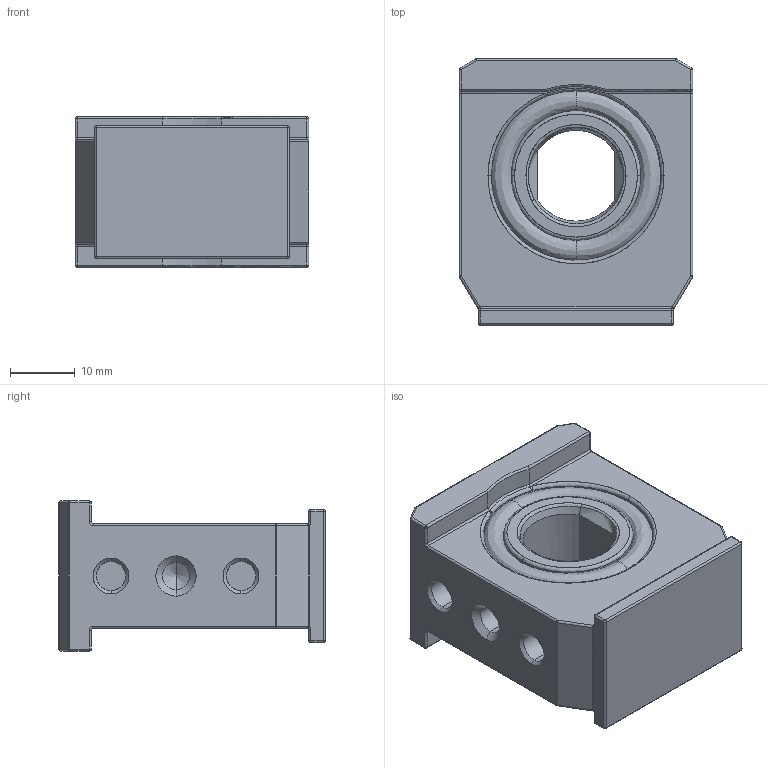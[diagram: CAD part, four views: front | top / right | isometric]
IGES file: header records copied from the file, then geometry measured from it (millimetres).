
Start section: SolidWorks IGES file using analytic representation for surfaces
Global section: file name: C:\Documents and Settings\Administrator\桌面\ZGNUFR03SB-1.IGS,1; native system: 5HSolidWorks 2012; preprocessor: SolidWorks 2012; author: Administrator; date: 140703.103556; units: millimetre
Bounding box: 36 x 41 x 23.1 mm (x, y, z)
Surface area: 7976 mm2 (no closed solid volume)
Topology: 0 solids, 0 shells, 214 faces, 2380 edges, 2822 vertices
Faces by surface type: revolution 118, bspline 96
